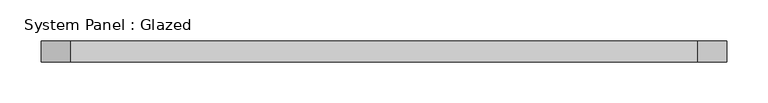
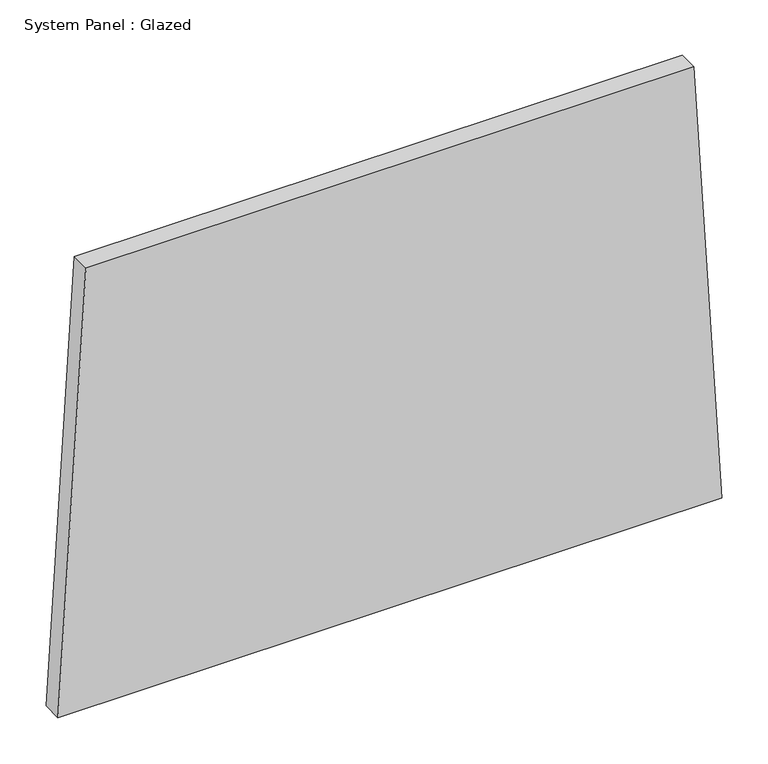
"""IFC4 building model written with IfcOpenShell, lengths in millimetres: plate geometry, System Panel : Glazed."""

from ifc_helpers import new_model, si_unit, frame, origin, place, context, project, spatial, polyline, outline, extrude, source, transform, mapped, element, save


def system_panel_glazed_2df72c5f(model_context):
    return source(origin(), model_context, "Body", "SweptSolid", [
        extrude(outline(polyline([(0.0, -415.8764224), (0.0, 415.8764224), (583.1054808, 380.8870001), (583.1054808, -380.8870001), (0.0, -415.8764224)])), frame((0.0, -44.45, 0.0), z_axis=(0.0, 1.0, 0.0), x_axis=(0.0, 0.0, 1.0)), (0.0, 0.0, 1.0), 25.4),
    ])


if __name__ == "__main__":
    model = new_model("IFC4")
    model_context = context("Model", 3, world=origin())
    ifc_project = project(units=[si_unit("LENGTHUNIT", "METRE", prefix="MILLI")], contexts=[model_context])
    site = spatial("IfcSite", under=ifc_project)
    building = spatial("IfcBuilding", under=site)
    placement = place(None, origin())
    system_panel_glazed_shape = system_panel_glazed_2df72c5f(model_context)
    element("IfcPlate", 1, ObjectType="System Panel : Glazed", at=placement, inside=building, context=model_context, shape_type="MappedRepresentation", body=[
        mapped(system_panel_glazed_shape, transform((0.0, 0.0, 0.0), x_axis=(1.0, 0.0, 0.0), y_axis=(0.0, 1.0, 0.0), z_axis=(0.0, 0.0, 1.0))),
    ])
    save(model, "model.ifc")
